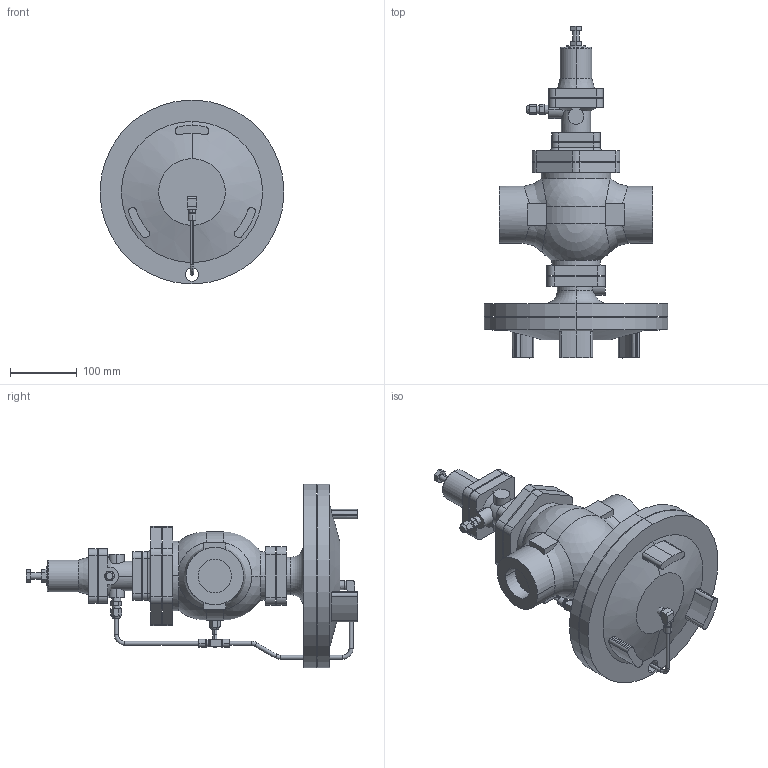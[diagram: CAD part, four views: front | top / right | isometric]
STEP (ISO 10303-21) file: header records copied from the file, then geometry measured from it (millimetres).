
FILE_DESCRIPTION (( 'STEP AP203' ), '1' );
FILE_NAME ('GPR-2000 JIS Rc 50A.STEP', '2025-12-05T02:41:58', ( '' ), ( '' ), 'SwSTEP 2.0', 'SolidWorks 2024', '' );
FILE_SCHEMA (( 'CONFIG_CONTROL_DESIGN' ));
Length unit declared in the file: millimetre
Products named in the file (8): Elbow; GP-2000 Pipe A 50A; Pipe C 50A; GPR-2000 Body Assy EN 50A; Tee; Joint; GPR-2000 JIS Rc 50A; Pipe B 50A
Assembly tree (9 placements, depth 2):
  GPR-2000 JIS Rc 50A
    GPR-2000 Body Assy EN 50A
    Tee
    Pipe B 50A
    Joint  x3
    GP-2000 Pipe A 50A
    Elbow
    Pipe C 50A
Bounding box: 276 x 498.1 x 276 mm (x, y, z)
Volume: 6199281 mm3; surface area: 457336.1 mm2
Topology: 9 solids, 9 shells, 437 faces, 1109 edges, 733 vertices
Faces by surface type: plane 209, cylinder 174, cone 28, torus 18, sphere 4, bspline 4
Entity records: 14711 total; most frequent: CARTESIAN_POINT 4318, DIRECTION 2061, ORIENTED_EDGE 1934, EDGE_CURVE 967, AXIS2_PLACEMENT_3D 782, VERTEX_POINT 633, LINE 497, VECTOR 497
